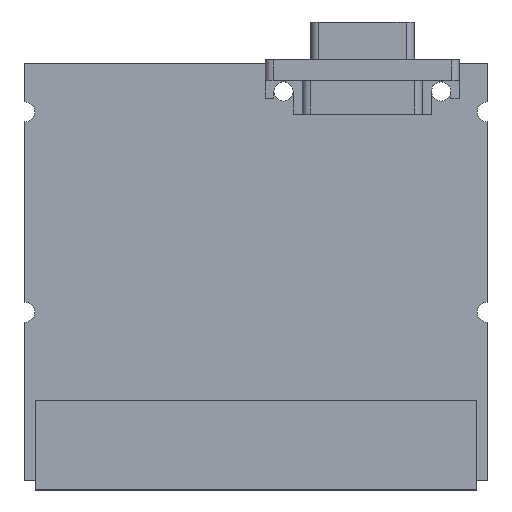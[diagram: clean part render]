
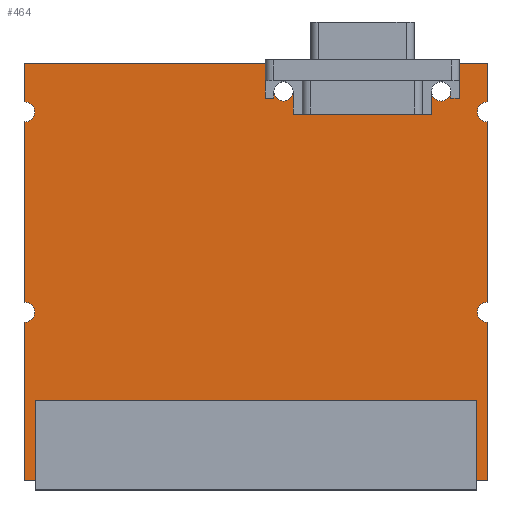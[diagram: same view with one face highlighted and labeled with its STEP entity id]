
A CAD part, top view. The second image highlights one B-rep face of the part: STEP entity #464.
In plain terms, the highlighted planar face has unit normal (0, 0, 1).
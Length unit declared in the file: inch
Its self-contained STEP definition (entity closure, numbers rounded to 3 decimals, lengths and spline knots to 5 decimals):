
#121=CARTESIAN_POINT('',(0.1715,1.128,0.062));
#122=DIRECTION('',(0.,0.,1.));
#123=DIRECTION('',(0.,1.,0.));
#124=AXIS2_PLACEMENT_3D('',#121,#122,#123);
#126=CARTESIAN_POINT('',(0.1715,1.128,0.062));
#127=DIRECTION('',(0.,0.,1.));
#128=DIRECTION('',(0.,-1.,0.));
#129=AXIS2_PLACEMENT_3D('',#126,#127,#128);
#131=CARTESIAN_POINT('',(1.1555,1.128,0.062));
#132=DIRECTION('',(0.,0.,1.));
#133=DIRECTION('',(0.,1.,0.));
#134=AXIS2_PLACEMENT_3D('',#131,#132,#133);
#136=CARTESIAN_POINT('',(1.1555,1.128,0.062));
#137=DIRECTION('',(0.,0.,1.));
#138=DIRECTION('',(0.,-1.,0.));
#139=AXIS2_PLACEMENT_3D('',#136,#137,#138);
#141=CARTESIAN_POINT('',(-1.4445,1.,0.062));
#142=DIRECTION('',(0.,0.,1.));
#143=DIRECTION('',(0.,-1.,0.));
#144=AXIS2_PLACEMENT_3D('',#141,#142,#143);
#146=DIRECTION('',(0.,-1.,0.));
#147=VECTOR('',#146,0.2375);
#148=CARTESIAN_POINT('',(-1.4445,1.3,0.062));
#149=LINE('',#148,#147);
#150=DIRECTION('',(-1.,0.,0.));
#151=VECTOR('',#150,2.889);
#152=CARTESIAN_POINT('',(1.4445,1.3,0.062));
#153=LINE('',#152,#151);
#154=DIRECTION('',(0.,1.,0.));
#155=VECTOR('',#154,0.2375);
#156=CARTESIAN_POINT('',(1.4445,1.0625,0.062));
#157=LINE('',#156,#155);
#158=CARTESIAN_POINT('',(1.4445,1.,0.062));
#159=DIRECTION('',(0.,0.,1.));
#160=DIRECTION('',(0.,1.,0.));
#161=AXIS2_PLACEMENT_3D('',#158,#159,#160);
#163=DIRECTION('',(0.,1.,0.));
#164=VECTOR('',#163,1.125);
#165=CARTESIAN_POINT('',(1.4445,-0.1875,0.062));
#166=LINE('',#165,#164);
#167=CARTESIAN_POINT('',(1.4445,-0.25,0.062));
#168=DIRECTION('',(0.,0.,1.));
#169=DIRECTION('',(0.,1.,0.));
#170=AXIS2_PLACEMENT_3D('',#167,#168,#169);
#172=DIRECTION('',(0.,1.,0.));
#173=VECTOR('',#172,0.9875);
#174=CARTESIAN_POINT('',(1.4445,-1.3,0.062));
#175=LINE('',#174,#173);
#176=DIRECTION('',(1.,0.,0.));
#177=VECTOR('',#176,2.889);
#178=CARTESIAN_POINT('',(-1.4445,-1.3,0.062));
#179=LINE('',#178,#177);
#180=DIRECTION('',(0.,-1.,0.));
#181=VECTOR('',#180,0.9875);
#182=CARTESIAN_POINT('',(-1.4445,-0.3125,0.062));
#183=LINE('',#182,#181);
#184=CARTESIAN_POINT('',(-1.4445,-0.25,0.062));
#185=DIRECTION('',(0.,0.,1.));
#186=DIRECTION('',(0.,-1.,0.));
#187=AXIS2_PLACEMENT_3D('',#184,#185,#186);
#189=DIRECTION('',(0.,-1.,0.));
#190=VECTOR('',#189,1.125);
#191=CARTESIAN_POINT('',(-1.4445,0.9375,0.062));
#192=LINE('',#191,#190);
#197=CARTESIAN_POINT('',(-1.4445,-1.3,0.062));
#198=CARTESIAN_POINT('',(1.4445,-1.3,0.062));
#199=VERTEX_POINT('',#197);
#200=VERTEX_POINT('',#198);
#209=CARTESIAN_POINT('',(0.1715,1.188,0.062));
#210=CARTESIAN_POINT('',(0.1715,1.068,0.062));
#211=VERTEX_POINT('',#209);
#212=VERTEX_POINT('',#210);
#213=CARTESIAN_POINT('',(1.1555,1.188,0.062));
#214=CARTESIAN_POINT('',(1.1555,1.068,0.062));
#215=VERTEX_POINT('',#213);
#216=VERTEX_POINT('',#214);
#221=CARTESIAN_POINT('',(1.4445,1.3,0.062));
#222=CARTESIAN_POINT('',(-1.4445,1.3,0.062));
#223=VERTEX_POINT('',#221);
#224=VERTEX_POINT('',#222);
#233=CARTESIAN_POINT('',(-1.4445,0.9375,0.062));
#234=CARTESIAN_POINT('',(-1.4445,1.0625,0.062));
#235=VERTEX_POINT('',#233);
#236=VERTEX_POINT('',#234);
#237=CARTESIAN_POINT('',(-1.4445,-0.3125,0.062));
#238=CARTESIAN_POINT('',(-1.4445,-0.1875,0.062));
#239=VERTEX_POINT('',#237);
#240=VERTEX_POINT('',#238);
#247=CARTESIAN_POINT('',(1.4445,-0.3125,0.062));
#248=VERTEX_POINT('',#247);
#249=CARTESIAN_POINT('',(1.4445,-0.1875,0.062));
#250=CARTESIAN_POINT('',(1.4445,0.9375,0.062));
#251=VERTEX_POINT('',#249);
#252=VERTEX_POINT('',#250);
#255=CARTESIAN_POINT('',(1.4445,1.0625,0.062));
#256=VERTEX_POINT('',#255);
#430=CARTESIAN_POINT('',(0.,0.,0.062));
#431=DIRECTION('',(0.,0.,1.));
#432=DIRECTION('',(1.,0.,0.));
#433=AXIS2_PLACEMENT_3D('',#430,#431,#432);
#434=PLANE('',#433);
#435=ORIENTED_EDGE('',*,*,#309,.T.);
#436=ORIENTED_EDGE('',*,*,#325,.F.);
#437=ORIENTED_EDGE('',*,*,#367,.F.);
#438=ORIENTED_EDGE('',*,*,#410,.F.);
#440=ORIENTED_EDGE('',*,*,#439,.T.);
#441=ORIENTED_EDGE('',*,*,#396,.F.);
#443=ORIENTED_EDGE('',*,*,#442,.T.);
#444=ORIENTED_EDGE('',*,*,#381,.F.);
#445=ORIENTED_EDGE('',*,*,#424,.F.);
#446=ORIENTED_EDGE('',*,*,#351,.F.);
#448=ORIENTED_EDGE('',*,*,#447,.T.);
#449=ORIENTED_EDGE('',*,*,#336,.F.);
#450=EDGE_LOOP('',(#435,#436,#437,#438,#440,#441,#443,#444,#445,#446,#448,
#449));
#451=FACE_OUTER_BOUND('',#450,.F.);
#453=ORIENTED_EDGE('',*,*,#452,.T.);
#455=ORIENTED_EDGE('',*,*,#454,.T.);
#456=EDGE_LOOP('',(#453,#455));
#457=FACE_BOUND('',#456,.F.);
#459=ORIENTED_EDGE('',*,*,#458,.T.);
#461=ORIENTED_EDGE('',*,*,#460,.T.);
#462=EDGE_LOOP('',(#459,#461));
#463=FACE_BOUND('',#462,.F.);
#464=ADVANCED_FACE('',(#451,#457,#463),#434,.T.);
#125=CIRCLE('',#124,0.06);
#130=CIRCLE('',#129,0.06);
#135=CIRCLE('',#134,0.06);
#140=CIRCLE('',#139,0.06);
#145=CIRCLE('',#144,0.0625);
#162=CIRCLE('',#161,0.0625);
#171=CIRCLE('',#170,0.0625);
#188=CIRCLE('',#187,0.0625);
#309=EDGE_CURVE('',#235,#236,#145,.T.);
#325=EDGE_CURVE('',#224,#236,#149,.T.);
#336=EDGE_CURVE('',#235,#240,#192,.T.);
#351=EDGE_CURVE('',#239,#199,#183,.T.);
#367=EDGE_CURVE('',#223,#224,#153,.T.);
#381=EDGE_CURVE('',#200,#248,#175,.T.);
#396=EDGE_CURVE('',#251,#252,#166,.T.);
#410=EDGE_CURVE('',#256,#223,#157,.T.);
#424=EDGE_CURVE('',#199,#200,#179,.T.);
#439=EDGE_CURVE('',#256,#252,#162,.T.);
#442=EDGE_CURVE('',#251,#248,#171,.T.);
#447=EDGE_CURVE('',#239,#240,#188,.T.);
#452=EDGE_CURVE('',#215,#216,#135,.T.);
#454=EDGE_CURVE('',#216,#215,#140,.T.);
#458=EDGE_CURVE('',#211,#212,#125,.T.);
#460=EDGE_CURVE('',#212,#211,#130,.T.);
